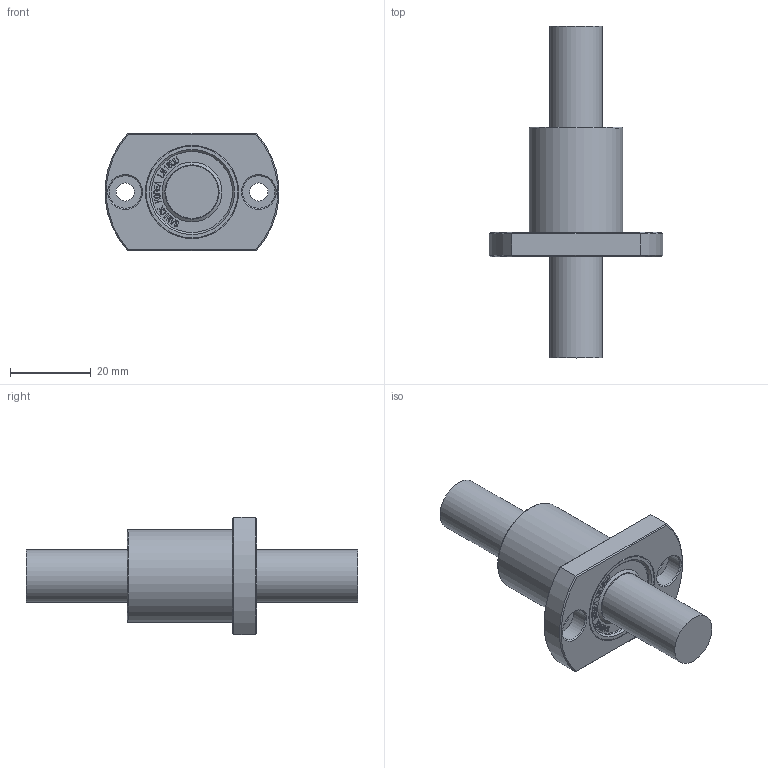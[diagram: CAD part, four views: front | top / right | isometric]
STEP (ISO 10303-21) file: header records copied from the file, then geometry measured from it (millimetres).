
FILE_DESCRIPTION(/* description */ (''),/* implementation_level */ '2;1');
FILE_NAME(/* name */ 'W:\(01) 2024년 홈페이지 CAD파일 최신화\LMH\IPT\LMH13UU.stp',/* time_stamp */ '2025-01-23T09:34:49+09:00',/* author */ ('서우현'),/* organization */ (''),/* preprocessor_version */ 'ST-DEVELOPER v17.2',/* originating_system */ 'Autodesk Inventor 2019',/* authorisation */ '');
FILE_SCHEMA (('AUTOMOTIVE_DESIGN { 1 0 10303 214 3 1 1 }'));
Length unit declared in the file: millimetre
Products named in the file (1): LM5
Bounding box: 42.85 x 82 x 29 mm (x, y, z)
Volume: 23457.2 mm3; surface area: 7297.2 mm2
Topology: 1 solids, 1 shells, 860 faces, 2426 edges, 1620 vertices
Faces by surface type: bspline 604, plane 230, cone 12, cylinder 12, torus 2
Full cylindrical faces by diameter (mm): 4.5 x2, 8 x2, 13 x2, 20 x2, 23 x2
Entity records: 29346 total; most frequent: CARTESIAN_POINT 10359, ORIENTED_EDGE 4852, EDGE_CURVE 2426, DIRECTION 1790, VERTEX_POINT 1620, B_SPLINE_CURVE_WITH_KNOTS 1208, LINE 1144, VECTOR 1144
